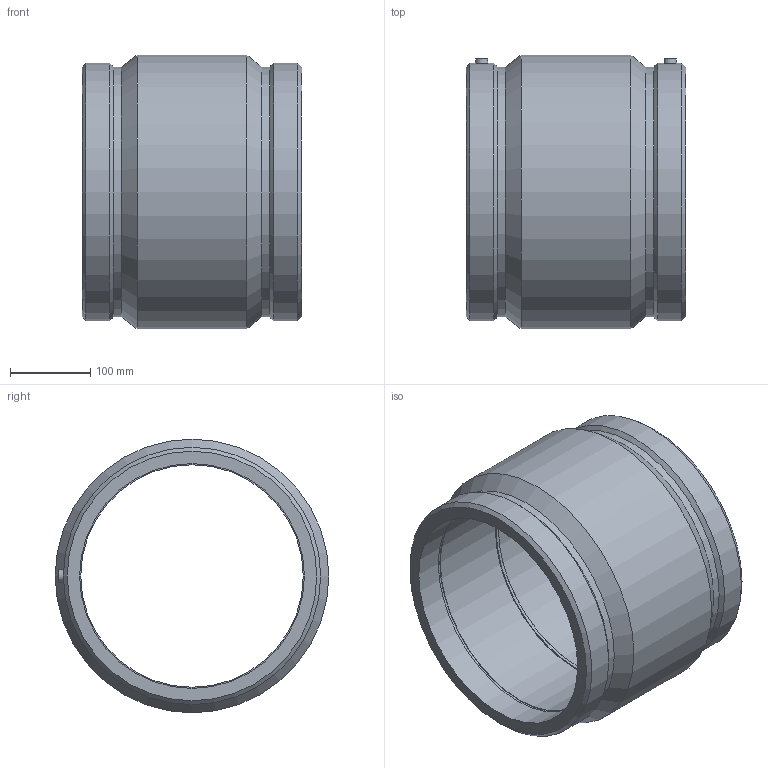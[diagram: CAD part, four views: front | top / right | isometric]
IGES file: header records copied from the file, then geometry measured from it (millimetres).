
Global section: file name: 450104280.ipt; native system: Autodesk Inventor 2015; preprocessor: unknown; author: KIM; date: 20171106.093358; units: millimetre
Bounding box: 274 x 341 x 341 mm (x, y, z)
Volume: 6663253.2 mm3; surface area: 578105.9 mm2
Topology: 1 solids, 1 shells, 36 faces, 80 edges, 54 vertices
Faces by surface type: plane 12, revolution 9, cone 8, cylinder 7
Full cylindrical faces by diameter (mm): 4 x2, 310.924 x2, 320.54 x2, 341 x1
